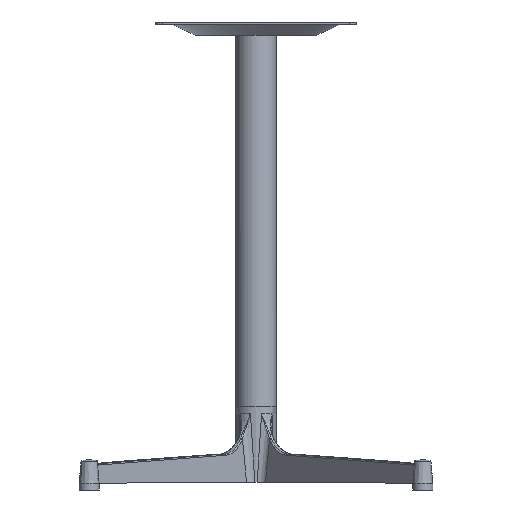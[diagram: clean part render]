
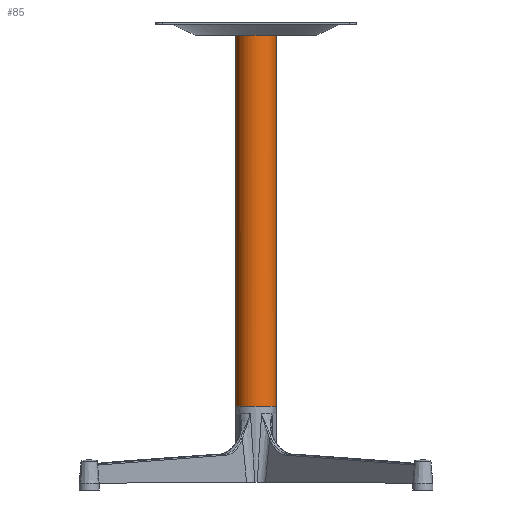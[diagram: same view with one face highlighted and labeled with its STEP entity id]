
A CAD part, left-side view. The second image highlights one B-rep face of the part: STEP entity #85.
In plain terms, the highlighted free-form (B-spline) face has degree [1, 2] with [2, 9] control points.
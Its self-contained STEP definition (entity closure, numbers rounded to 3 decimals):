
#85=ADVANCED_FACE('',(#215),#1944,.T.);
#215=FACE_OUTER_BOUND('',#345,.T.);
#345=EDGE_LOOP('',(#613,#614,#615,#616,#617,#618));
#613=ORIENTED_EDGE('',*,*,#1411,.F.);
#614=ORIENTED_EDGE('',*,*,#1412,.F.);
#615=ORIENTED_EDGE('',*,*,#1176,.F.);
#616=ORIENTED_EDGE('',*,*,#1177,.T.);
#617=ORIENTED_EDGE('',*,*,#1327,.T.);
#618=ORIENTED_EDGE('',*,*,#1177,.F.);
#1176=EDGE_CURVE('',#1820,#1932,#1445,.T.);
#1177=EDGE_CURVE('',#1820,#1823,#1446,.T.);
#1327=EDGE_CURVE('',#1823,#1823,#1470,.T.);
#1411=EDGE_CURVE('',#1929,#1820,#1523,.T.);
#1412=EDGE_CURVE('',#1932,#1929,#1524,.T.);
#1445=(
BOUNDED_CURVE()
B_SPLINE_CURVE(2,(#5417,#5418,#5419,#5420,#5421),.UNSPECIFIED.,.F.,.F.)
B_SPLINE_CURVE_WITH_KNOTS((3,2,3),(-3.142,-1.571,-0.149),
 .UNSPECIFIED.)
CURVE()
GEOMETRIC_REPRESENTATION_ITEM()
RATIONAL_B_SPLINE_CURVE((1.,0.707,1.,0.754,1.))
REPRESENTATION_ITEM('')
);
#1446=(
BOUNDED_CURVE()
B_SPLINE_CURVE(1,(#5422,#5423),.UNSPECIFIED.,.F.,.F.)
B_SPLINE_CURVE_WITH_KNOTS((2,2),(0.,555.),
 .UNSPECIFIED.)
CURVE()
GEOMETRIC_REPRESENTATION_ITEM()
RATIONAL_B_SPLINE_CURVE((1.,1.))
REPRESENTATION_ITEM('')
);
#1470=(
BOUNDED_CURVE()
B_SPLINE_CURVE(2,(#6375,#6376,#6377,#6378,#6379,#6380,#6381,#6382,#6383),
 .UNSPECIFIED.,.T.,.F.)
B_SPLINE_CURVE_WITH_KNOTS((3,2,2,2,3),(3.142,4.712,
6.283,7.854,9.425),.UNSPECIFIED.)
CURVE()
GEOMETRIC_REPRESENTATION_ITEM()
RATIONAL_B_SPLINE_CURVE((1.,0.707,1.,0.707,1.,0.707,
1.,0.707,1.))
REPRESENTATION_ITEM('')
);
#1523=(
BOUNDED_CURVE()
B_SPLINE_CURVE(2,(#6807,#6808,#6809,#6810,#6811),.UNSPECIFIED.,.F.,.F.)
B_SPLINE_CURVE_WITH_KNOTS((3,2,3),(0.149,1.571,3.142),
 .UNSPECIFIED.)
CURVE()
GEOMETRIC_REPRESENTATION_ITEM()
RATIONAL_B_SPLINE_CURVE((1.,0.754,1.,0.707,1.))
REPRESENTATION_ITEM('')
);
#1524=(
BOUNDED_CURVE()
B_SPLINE_CURVE(2,(#6812,#6813,#6814,#6815,#6816),.UNSPECIFIED.,.F.,.F.)
B_SPLINE_CURVE_WITH_KNOTS((3,2,3),(-0.149,0.,0.149),
 .UNSPECIFIED.)
CURVE()
GEOMETRIC_REPRESENTATION_ITEM()
RATIONAL_B_SPLINE_CURVE((1.,0.998,1.,0.998,1.))
REPRESENTATION_ITEM('')
);
#1820=VERTEX_POINT('',#4700);
#1823=VERTEX_POINT('',#4703);
#1929=VERTEX_POINT('',#4809);
#1932=VERTEX_POINT('',#4812);
#1944=(
BOUNDED_SURFACE()
B_SPLINE_SURFACE(1,2,((#2923,#2924,#2925,#2926,#2927,#2928,#2929,#2930,
#2931),(#2932,#2933,#2934,#2935,#2936,#2937,#2938,#2939,#2940)),
 .UNSPECIFIED.,.F.,.F.,.F.)
B_SPLINE_SURFACE_WITH_KNOTS((2,2),(3,2,2,2,3),(0.,555.),
(0.,60.5,121.,181.5,242.),.UNSPECIFIED.)
GEOMETRIC_REPRESENTATION_ITEM()
RATIONAL_B_SPLINE_SURFACE(((1.,0.707,1.,0.707,1.,
0.707,1.,0.707,1.),(1.,0.707,1.,0.707,
1.,0.707,1.,0.707,1.)))
REPRESENTATION_ITEM('')
SURFACE()
);
#2923=CARTESIAN_POINT('',(-30.25,0.,680.));
#2924=CARTESIAN_POINT('',(-30.25,-30.25,680.));
#2925=CARTESIAN_POINT('',(0.,-30.25,680.));
#2926=CARTESIAN_POINT('',(30.25,-30.25,680.));
#2927=CARTESIAN_POINT('',(30.25,0.,680.));
#2928=CARTESIAN_POINT('',(30.25,30.25,680.));
#2929=CARTESIAN_POINT('',(0.,30.25,680.));
#2930=CARTESIAN_POINT('',(-30.25,30.25,680.));
#2931=CARTESIAN_POINT('',(-30.25,0.,680.));
#2932=CARTESIAN_POINT('',(-30.25,0.,125.));
#2933=CARTESIAN_POINT('',(-30.25,-30.25,125.));
#2934=CARTESIAN_POINT('',(0.,-30.25,125.));
#2935=CARTESIAN_POINT('',(30.25,-30.25,125.));
#2936=CARTESIAN_POINT('',(30.25,0.,125.));
#2937=CARTESIAN_POINT('',(30.25,30.25,125.));
#2938=CARTESIAN_POINT('',(0.,30.25,125.));
#2939=CARTESIAN_POINT('',(-30.25,30.25,125.));
#2940=CARTESIAN_POINT('',(-30.25,0.,125.));
#4700=CARTESIAN_POINT('',(-30.25,0.,680.));
#4703=CARTESIAN_POINT('',(-30.25,0.,125.));
#4809=CARTESIAN_POINT('',(29.962,4.165,680.));
#4812=CARTESIAN_POINT('',(29.962,-4.165,680.));
#5417=CARTESIAN_POINT('',(-30.25,0.,680.));
#5418=CARTESIAN_POINT('',(-30.25,-30.25,680.));
#5419=CARTESIAN_POINT('',(0.,-30.25,680.));
#5420=CARTESIAN_POINT('',(26.336,-30.25,680.));
#5421=CARTESIAN_POINT('',(29.962,-4.165,680.));
#5422=CARTESIAN_POINT('',(-30.25,0.,680.));
#5423=CARTESIAN_POINT('',(-30.25,0.,125.));
#6375=CARTESIAN_POINT('',(-30.25,0.,125.));
#6376=CARTESIAN_POINT('',(-30.25,-30.25,125.));
#6377=CARTESIAN_POINT('',(0.,-30.25,125.));
#6378=CARTESIAN_POINT('',(30.25,-30.25,125.));
#6379=CARTESIAN_POINT('',(30.25,0.,125.));
#6380=CARTESIAN_POINT('',(30.25,30.25,125.));
#6381=CARTESIAN_POINT('',(0.,30.25,125.));
#6382=CARTESIAN_POINT('',(-30.25,30.25,125.));
#6383=CARTESIAN_POINT('',(-30.25,0.,125.));
#6807=CARTESIAN_POINT('',(29.962,4.165,680.));
#6808=CARTESIAN_POINT('',(26.336,30.25,680.));
#6809=CARTESIAN_POINT('',(0.,30.25,680.));
#6810=CARTESIAN_POINT('',(-30.25,30.25,680.));
#6811=CARTESIAN_POINT('',(-30.25,0.,680.));
#6812=CARTESIAN_POINT('',(29.962,-4.165,680.));
#6813=CARTESIAN_POINT('',(30.25,-2.092,680.));
#6814=CARTESIAN_POINT('',(30.25,0.,680.));
#6815=CARTESIAN_POINT('',(30.25,2.092,680.));
#6816=CARTESIAN_POINT('',(29.962,4.165,680.));
